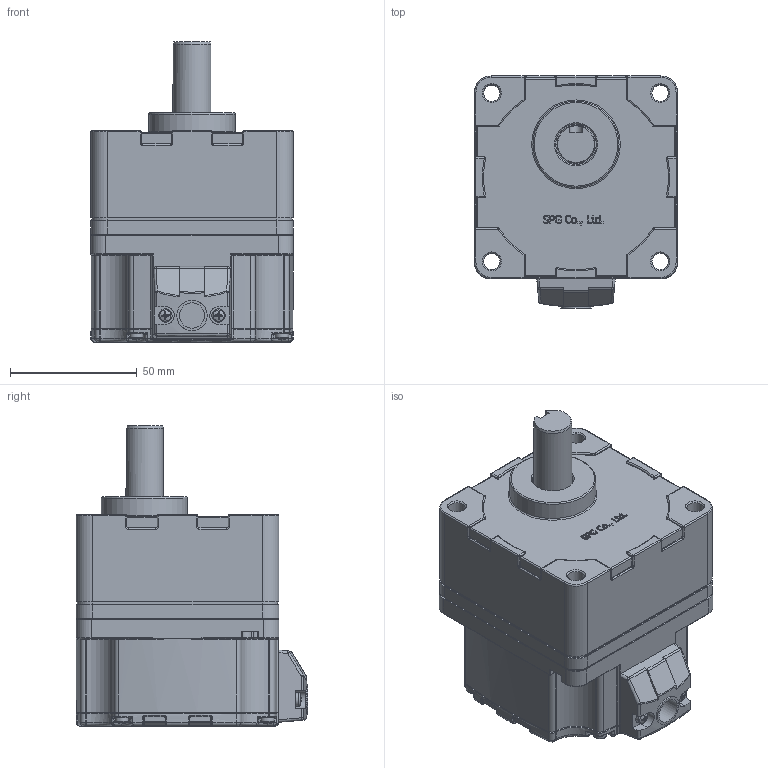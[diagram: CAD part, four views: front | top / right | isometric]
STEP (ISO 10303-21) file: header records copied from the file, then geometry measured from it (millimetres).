
FILE_DESCRIPTION((''),'2;1');
FILE_NAME('C:\Documents and Settings\Administrator\바탕 화면\BLDC 3D FILE\GEARED MOTOR\80-RATIO 5~20.stp','2014-06-19T16:06:44',('kdhkdh'),(''),'Autodesk Inventor 2011','Autodesk Inventor 2011','');
FILE_SCHEMA(('AUTOMOTIVE_DESIGN { 1 0 10303 214 1 1 1 1 }'));
Length unit declared in the file: millimetre
Products named in the file (1): 부품1
Bounding box: 80 x 91.5 x 118.5 mm (x, y, z)
Volume: 494569.6 mm3; surface area: 68700.5 mm2
Topology: 1 solids, 11 shells, 1291 faces, 3206 edges, 1912 vertices
Faces by surface type: cylinder 384, plane 356, bspline 243, torus 165, cone 93, sphere 50
Full cylindrical faces by diameter (mm): 2.729 x6, 3 x8, 3.5 x6, 4 x4, 4.3 x4, 5.3 x6, 5.72 x1, 6.5 x12, 7.5 x1, 8 x5, 10 x1, 12 x1, 15 x1, 16 x1, 18 x1, 34 x1, 61 x1, 73 x1, 77 x2
Entity records: 41506 total; most frequent: CARTESIAN_POINT 12979, ORIENTED_EDGE 5938, DIRECTION 5699, EDGE_CURVE 2969, AXIS2_PLACEMENT_3D 2291, VERTEX_POINT 1868, EDGE_LOOP 1484, FACE_OUTER_BOUND 1291
